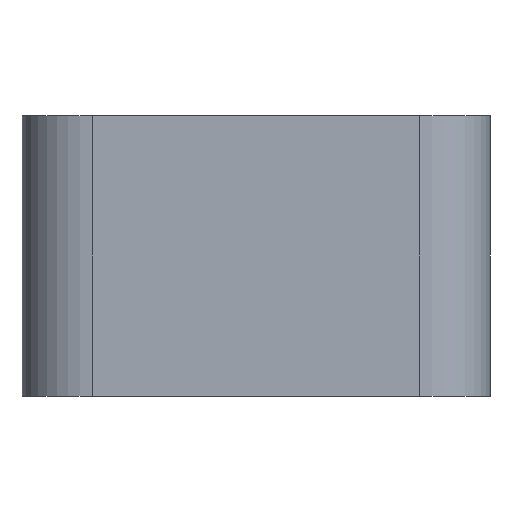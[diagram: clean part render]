
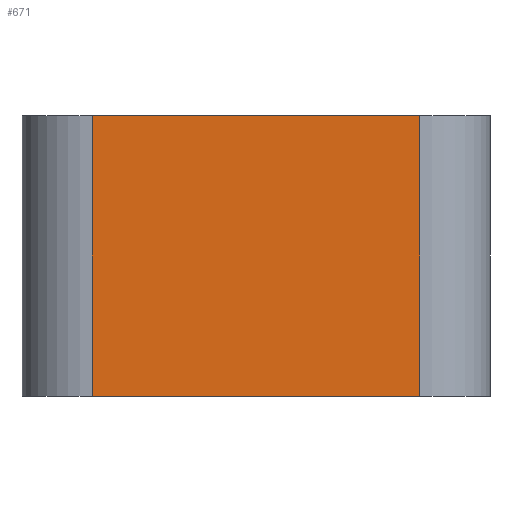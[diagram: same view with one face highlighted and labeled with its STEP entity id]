
A CAD part, left-side view. The second image highlights one B-rep face of the part: STEP entity #671.
In plain terms, the highlighted planar face has unit normal (-1, 0, 0).
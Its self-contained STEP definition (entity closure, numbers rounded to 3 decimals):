
#434=CARTESIAN_POINT('Vertex',(-26.,-7.,0.)) ;
#439=CARTESIAN_POINT('Line Origine',(-26.,0.,0.)) ;
#443=CARTESIAN_POINT('Vertex',(-26.,7.,0.)) ;
#629=CARTESIAN_POINT('Line Origine',(-26.,7.,6.)) ;
#633=CARTESIAN_POINT('Vertex',(-26.,7.,12.)) ;
#648=CARTESIAN_POINT('Axis2P3D Location',(-26.,7.,0.)) ;
#653=CARTESIAN_POINT('Line Origine',(-26.,-7.,6.)) ;
#657=CARTESIAN_POINT('Vertex',(-26.,-7.,12.)) ;
#660=CARTESIAN_POINT('Line Origine',(-26.,0.,12.)) ;
#441=VECTOR('Line Direction',#440,1.) ;
#631=VECTOR('Line Direction',#630,1.) ;
#655=VECTOR('Line Direction',#654,1.) ;
#662=VECTOR('Line Direction',#661,1.) ;
#440=DIRECTION('Vector Direction',(0.,-1.,0.)) ;
#630=DIRECTION('Vector Direction',(0.,0.,1.)) ;
#649=DIRECTION('Axis2P3D Direction',(-1.,0.,0.)) ;
#650=DIRECTION('Axis2P3D XDirection',(0.,-1.,0.)) ;
#654=DIRECTION('Vector Direction',(0.,0.,1.)) ;
#661=DIRECTION('Vector Direction',(0.,-1.,0.)) ;
#651=AXIS2_PLACEMENT_3D('Plane Axis2P3D',#648,#649,#650) ;
#442=LINE('Line',#439,#441) ;
#632=LINE('Line',#629,#631) ;
#656=LINE('Line',#653,#655) ;
#663=LINE('Line',#660,#662) ;
#652=PLANE('',#651) ;
#445=EDGE_CURVE('',#444,#435,#442,.T.) ;
#635=EDGE_CURVE('',#444,#634,#632,.T.) ;
#659=EDGE_CURVE('',#435,#658,#656,.T.) ;
#664=EDGE_CURVE('',#634,#658,#663,.T.) ;
#666=ORIENTED_EDGE('',*,*,#635,.F.) ;
#667=ORIENTED_EDGE('',*,*,#445,.T.) ;
#668=ORIENTED_EDGE('',*,*,#659,.T.) ;
#669=ORIENTED_EDGE('',*,*,#664,.F.) ;
#665=EDGE_LOOP('',(#666,#667,#668,#669)) ;
#435=VERTEX_POINT('',#434) ;
#444=VERTEX_POINT('',#443) ;
#634=VERTEX_POINT('',#633) ;
#658=VERTEX_POINT('',#657) ;
#671=ADVANCED_FACE('M4_INSERT_PROCESS_COUPON',(#670),#652,.T.) ;
#670=FACE_OUTER_BOUND('',#665,.T.) ;
